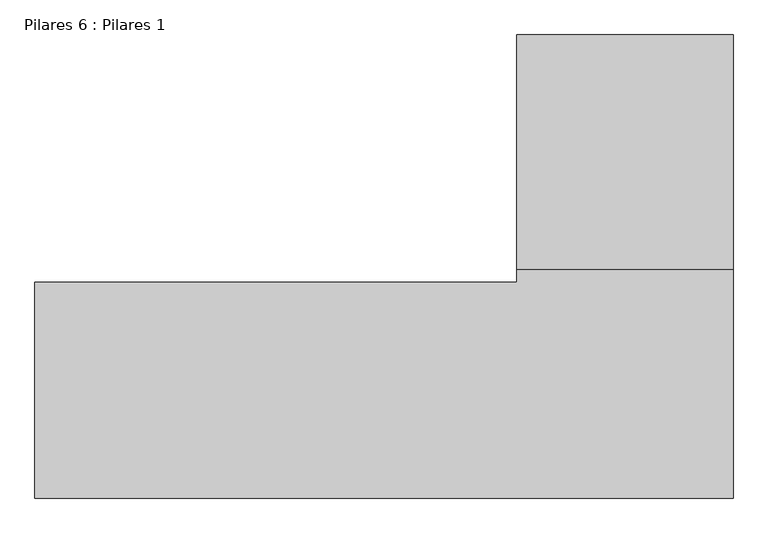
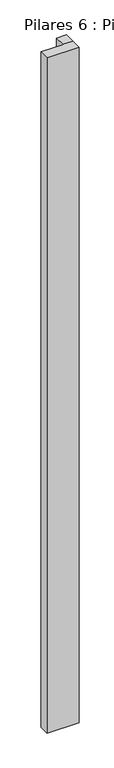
"""IFC4 building model written with IfcOpenShell, lengths in millimetres: column geometry, Pilares 6 : Pilares 1."""

from ifc_helpers import new_model, si_unit, origin, place, context, project, spatial, faceted_brep, source, transform, mapped, element, save


def pilares_6_pilares_1_231554fc(model_context):
    return source(origin(), model_context, "Body", "Brep", [
        faceted_brep([(42919.5059119, 25274.0112971, -7250.0), (42919.5059119, 25674.0112971, -7250.0), (43089.5059119, 25674.0112971, -7250.0), (43269.5059119, 25674.0112971, -7250.0), (43269.5059119, 24924.0112971, -7250.0), (42139.5059119, 24924.0112971, -7250.0), (42139.5059119, 25274.0112971, -7250.0), (42919.5059119, 25274.0112971, 18000.0), (42919.5059119, 25294.0112971, 18000.0), (42919.5059119, 25674.0112971, 18000.0), (42919.5059119, 25674.0112971, 17800.0), (42139.5059119, 25274.0112971, 18000.0), (42139.5059119, 24924.0112971, 18000.0), (43269.5059119, 24924.0112971, 18000.0), (43269.5059119, 25674.0112971, 18000.0), (43269.5059119, 25294.0112971, 18000.0)], [[[0, 1, 2, 3, 4, 5, 6]], [[1, 0, 7, 8, 9, 10]], [[0, 6, 11, 7]], [[6, 5, 12, 11]], [[5, 4, 13, 12]], [[4, 3, 14, 15, 13]], [[3, 2, 1, 10, 9, 14]], [[8, 7, 11, 12, 13, 15]], [[9, 8, 15, 14]]]),
    ])


if __name__ == "__main__":
    model = new_model("IFC4")
    model_context = context("Model", 3, world=origin())
    ifc_project = project(units=[si_unit("LENGTHUNIT", "METRE", prefix="MILLI")], contexts=[model_context])
    site = spatial("IfcSite", under=ifc_project)
    building = spatial("IfcBuilding", under=site)
    placement = place(None, origin())
    pilares_6_pilares_1_shape = pilares_6_pilares_1_231554fc(model_context)
    element("IfcColumn", 1, ObjectType="Pilares 6 : Pilares 1", at=placement, inside=building, context=model_context, shape_type="MappedRepresentation", body=[
        mapped(pilares_6_pilares_1_shape, transform((0.0, 0.0, 0.0), x_axis=(1.0, 0.0, 0.0), y_axis=(0.0, 1.0, 0.0), z_axis=(0.0, 0.0, 1.0))),
    ])
    save(model, "model.ifc")
